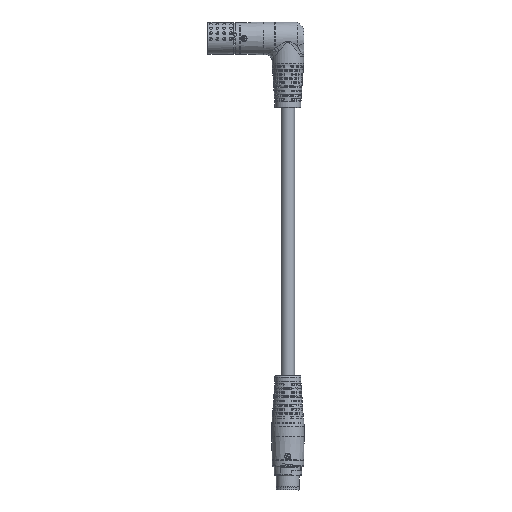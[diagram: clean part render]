
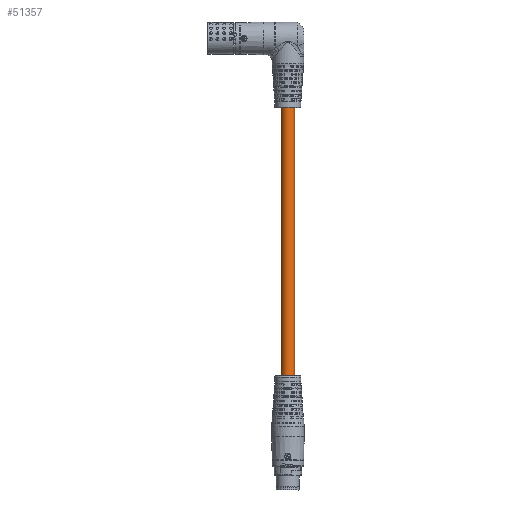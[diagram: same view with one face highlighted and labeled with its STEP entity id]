
A CAD part, front view. The second image highlights one B-rep face of the part: STEP entity #51357.
In plain terms, the highlighted cylindrical face has radius 4.55 mm (diameter 9.1 mm), a full revolution.
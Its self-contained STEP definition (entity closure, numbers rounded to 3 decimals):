
#2390 = CARTESIAN_POINT ( 'NONE',  ( -3.758, -2.566, -21.793 ) ) ;
#4635 = DIRECTION ( 'NONE',  ( 0., 0., 1. ) ) ;
#6841 = AXIS2_PLACEMENT_3D ( 'NONE', #23947, #4635, #38012 ) ;
#7749 = EDGE_LOOP ( 'NONE', ( #25556 ) ) ;
#7914 = VERTEX_POINT ( 'NONE', #40964 ) ;
#15579 = DIRECTION ( 'NONE',  ( -0.826, -0.564, 0. ) ) ;
#17308 = DIRECTION ( 'NONE',  ( 0., 0., 1. ) ) ;
#17991 = ORIENTED_EDGE ( 'NONE', *, *, #57287, .T. ) ;
#19965 = FACE_OUTER_BOUND ( 'NONE', #7749, .T. ) ;
#22832 = CIRCLE ( 'NONE', #30618, 4.55 ) ;
#23947 = CARTESIAN_POINT ( 'NONE',  ( 0., 0., -212.767 ) ) ;
#25556 = ORIENTED_EDGE ( 'NONE', *, *, #29331, .T. ) ;
#27100 = CARTESIAN_POINT ( 'NONE',  ( 0., 0., -199.898 ) ) ;
#28221 = FACE_OUTER_BOUND ( 'NONE', #34297, .T. ) ;
#29331 = EDGE_CURVE ( 'NONE', #44337, #44337, #42419, .T. ) ;
#29650 = CARTESIAN_POINT ( 'NONE',  ( 0., 0., -21.793 ) ) ;
#30618 = AXIS2_PLACEMENT_3D ( 'NONE', #27100, #17308, #44825 ) ;
#34297 = EDGE_LOOP ( 'NONE', ( #17991 ) ) ;
#38012 = DIRECTION ( 'NONE',  ( -0.826, -0.564, 0. ) ) ;
#40964 = CARTESIAN_POINT ( 'NONE',  ( 3.758, 2.566, -199.898 ) ) ;
#42419 = CIRCLE ( 'NONE', #54631, 4.55 ) ;
#44337 = VERTEX_POINT ( 'NONE', #2390 ) ;
#44825 = DIRECTION ( 'NONE',  ( 0.826, 0.564, 0. ) ) ;
#46591 = CYLINDRICAL_SURFACE ( 'NONE', #6841, 4.55 ) ;
#48623 = DIRECTION ( 'NONE',  ( 0., 0., -1. ) ) ;
#51357 = ADVANCED_FACE ( 'NONE', ( #19965, #28221 ), #46591, .T. ) ;
#54631 = AXIS2_PLACEMENT_3D ( 'NONE', #29650, #48623, #15579 ) ;
#57287 = EDGE_CURVE ( 'NONE', #7914, #7914, #22832, .T. ) ;
